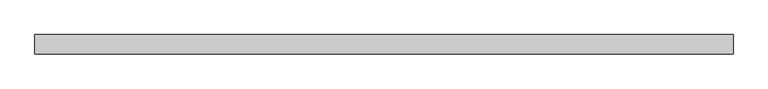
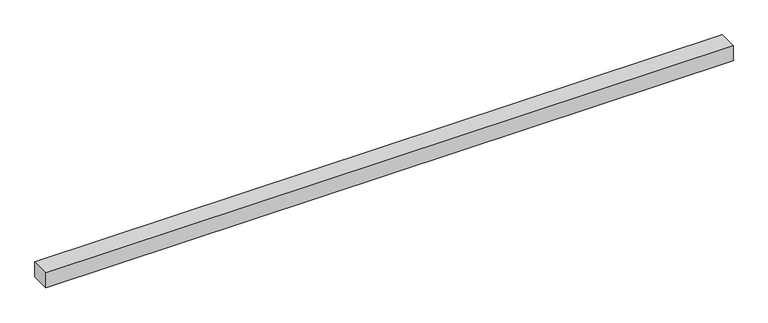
"""IFC4 building model written with IfcOpenShell, lengths in millimetres: proxy geometry, AERO^TABLE 5_54120 CTR TROUGH-POWER LID HINGE SOLID."""

from ifc_helpers import new_model, si_unit, origin, origin_with_axes, place, context, project, spatial, polyline, outline, extrude, source, transform, mapped, element, save


def generic_models_4dc68a47(model_context):
    return source(origin(), model_context, "Body", "SweptSolid", [
        extrude(outline(polyline([(1826.8188, 50.8), (1826.8188, 0.0), (0.0, 0.0), (0.0, 50.8), (1826.8188, 50.8)])), origin_with_axes(), (0.0, 0.0, 1.0), 41.275),
    ])


if __name__ == "__main__":
    model = new_model("IFC4")
    model_context = context("Model", 3, world=origin())
    ifc_project = project(units=[si_unit("LENGTHUNIT", "METRE", prefix="MILLI")], contexts=[model_context])
    site = spatial("IfcSite", under=ifc_project)
    building = spatial("IfcBuilding", under=site)
    placement = place(None, origin())
    generic_models_shape = generic_models_4dc68a47(model_context)
    element("IfcBuildingElementProxy", 1, Name="AERO^TABLE 5_54120 CTR TROUGH-POWER LID HINGE SOLID", ObjectType="AERO^TABLE 5_54120 CTR TROUGH-POWER LID HINGE SOLID", at=placement, inside=building, context=model_context, shape_type="MappedRepresentation", body=[
        mapped(generic_models_shape, transform((0.0, 0.0, 0.0), x_axis=(1.0, 0.0, 0.0), y_axis=(0.0, 1.0, 0.0), z_axis=(0.0, 0.0, 1.0))),
    ])
    save(model, "model.ifc")
